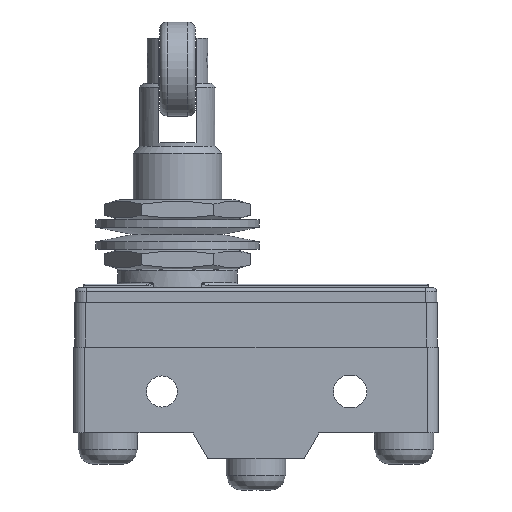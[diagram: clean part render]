
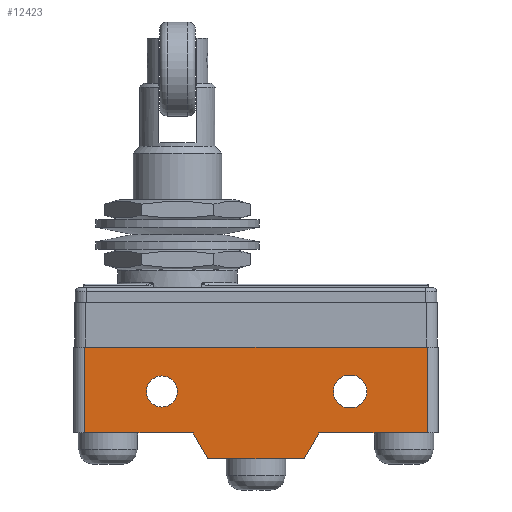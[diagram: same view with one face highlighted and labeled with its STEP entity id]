
A CAD part, left-side view. The second image highlights one B-rep face of the part: STEP entity #12423.
In plain terms, the highlighted planar face has unit normal (-1, 0, 0).
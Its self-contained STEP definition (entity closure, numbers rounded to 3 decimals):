
#1408=FACE_BOUND('',#2579,.T.);
#1409=FACE_BOUND('',#2580,.T.);
#1491=PLANE('',#13142);
#1872=FACE_OUTER_BOUND('',#2578,.T.);
#2578=EDGE_LOOP('',(#8838,#8839,#8840,#8841,#8842,#8843,#8844,#8845));
#2579=EDGE_LOOP('',(#8846));
#2580=EDGE_LOOP('',(#8847,#8848,#8849,#8850));
#3355=LINE('',#15947,#4460);
#3381=LINE('',#16093,#4486);
#3400=LINE('',#16253,#4505);
#3402=LINE('',#16257,#4507);
#3403=LINE('',#16258,#4508);
#3404=LINE('',#16260,#4509);
#3405=LINE('',#16262,#4510);
#3406=LINE('',#16263,#4511);
#3407=LINE('',#16268,#4512);
#3408=LINE('',#16272,#4513);
#4460=VECTOR('',#13706,14.6);
#4486=VECTOR('',#13752,14.6);
#4505=VECTOR('',#13775,11.6);
#4507=VECTOR('',#13779,46.2);
#4508=VECTOR('',#13780,11.6);
#4509=VECTOR('',#13781,4.031);
#4510=VECTOR('',#13782,13.);
#4511=VECTOR('',#13783,4.031);
#4512=VECTOR('',#13786,1.616);
#4513=VECTOR('',#13789,1.616);
#5571=CIRCLE('',#13143,2.1);
#5572=CIRCLE('',#13144,2.25);
#5573=CIRCLE('',#13145,2.25);
#5689=VERTEX_POINT('',#15944);
#5690=VERTEX_POINT('',#15946);
#5735=VERTEX_POINT('',#16090);
#5736=VERTEX_POINT('',#16092);
#5779=VERTEX_POINT('',#16251);
#5780=VERTEX_POINT('',#16256);
#5781=VERTEX_POINT('',#16259);
#5782=VERTEX_POINT('',#16261);
#5783=VERTEX_POINT('',#16264);
#5784=VERTEX_POINT('',#16266);
#5785=VERTEX_POINT('',#16267);
#5786=VERTEX_POINT('',#16269);
#5787=VERTEX_POINT('',#16271);
#6913=EDGE_CURVE('',#5690,#5689,#3355,.T.);
#6962=EDGE_CURVE('',#5736,#5735,#3381,.T.);
#7006=EDGE_CURVE('',#5779,#5735,#3400,.T.);
#7008=EDGE_CURVE('',#5779,#5780,#3402,.T.);
#7009=EDGE_CURVE('',#5690,#5780,#3403,.T.);
#7010=EDGE_CURVE('',#5689,#5781,#3404,.T.);
#7011=EDGE_CURVE('',#5781,#5782,#3405,.T.);
#7012=EDGE_CURVE('',#5782,#5736,#3406,.T.);
#7013=EDGE_CURVE('',#5783,#5783,#5571,.T.);
#7014=EDGE_CURVE('',#5784,#5785,#3407,.T.);
#7015=EDGE_CURVE('',#5785,#5786,#5572,.T.);
#7016=EDGE_CURVE('',#5786,#5787,#3408,.T.);
#7017=EDGE_CURVE('',#5787,#5784,#5573,.T.);
#8838=ORIENTED_EDGE('',*,*,#7006,.F.);
#8839=ORIENTED_EDGE('',*,*,#7008,.T.);
#8840=ORIENTED_EDGE('',*,*,#7009,.F.);
#8841=ORIENTED_EDGE('',*,*,#6913,.T.);
#8842=ORIENTED_EDGE('',*,*,#7010,.T.);
#8843=ORIENTED_EDGE('',*,*,#7011,.T.);
#8844=ORIENTED_EDGE('',*,*,#7012,.T.);
#8845=ORIENTED_EDGE('',*,*,#6962,.T.);
#8846=ORIENTED_EDGE('',*,*,#7013,.T.);
#8847=ORIENTED_EDGE('',*,*,#7014,.T.);
#8848=ORIENTED_EDGE('',*,*,#7015,.T.);
#8849=ORIENTED_EDGE('',*,*,#7016,.T.);
#8850=ORIENTED_EDGE('',*,*,#7017,.T.);
#12423=ADVANCED_FACE('',(#1872,#1408,#1409),#1491,.T.);
#13142=AXIS2_PLACEMENT_3D('',#16255,#13777,#13778);
#13143=AXIS2_PLACEMENT_3D('',#16265,#13784,#13785);
#13144=AXIS2_PLACEMENT_3D('',#16270,#13787,#13788);
#13145=AXIS2_PLACEMENT_3D('',#16273,#13790,#13791);
#13706=DIRECTION('',(0.,-1.,0.));
#13752=DIRECTION('',(0.,-1.,0.));
#13775=DIRECTION('',(0.,0.,-1.));
#13777=DIRECTION('center_axis',(-1.,0.,0.));
#13778=DIRECTION('ref_axis',(0.,0.,1.));
#13779=DIRECTION('',(0.,1.,0.));
#13780=DIRECTION('',(0.,0.,1.));
#13781=DIRECTION('',(0.,-0.496,-0.868));
#13782=DIRECTION('',(0.,-1.,0.));
#13783=DIRECTION('',(0.,-0.496,0.868));
#13784=DIRECTION('center_axis',(1.,0.,0.));
#13785=DIRECTION('ref_axis',(0.,0.,1.));
#13786=DIRECTION('',(0.,-1.,0.));
#13787=DIRECTION('center_axis',(1.,0.,0.));
#13788=DIRECTION('ref_axis',(0.,-0.359,0.933));
#13789=DIRECTION('',(0.,1.,0.));
#13790=DIRECTION('center_axis',(1.,0.,0.));
#13791=DIRECTION('ref_axis',(0.,0.359,-0.933));
#15944=CARTESIAN_POINT('',(-8.75,8.5,3.5));
#15946=CARTESIAN_POINT('',(-8.75,23.1,3.5));
#15947=CARTESIAN_POINT('',(-8.75,4.25,3.5));
#16090=CARTESIAN_POINT('',(-8.75,-23.1,3.5));
#16092=CARTESIAN_POINT('',(-8.75,-8.5,3.5));
#16093=CARTESIAN_POINT('',(-8.75,-12.3,3.5));
#16251=CARTESIAN_POINT('',(-8.75,-23.1,15.1));
#16253=CARTESIAN_POINT('',(-8.75,-23.1,11.325));
#16255=CARTESIAN_POINT('Origin',(-8.75,0.,7.55));
#16256=CARTESIAN_POINT('',(-8.75,23.1,15.1));
#16257=CARTESIAN_POINT('',(-8.75,-24.6,15.1));
#16258=CARTESIAN_POINT('',(-8.75,23.1,3.775));
#16259=CARTESIAN_POINT('',(-8.75,6.5,0.));
#16260=CARTESIAN_POINT('',(-8.75,7.326,1.446));
#16261=CARTESIAN_POINT('',(-8.75,-6.5,0.));
#16262=CARTESIAN_POINT('',(-8.75,24.6,0.));
#16263=CARTESIAN_POINT('',(-8.75,-8.326,3.196));
#16264=CARTESIAN_POINT('',(-8.75,12.7,7.));
#16265=CARTESIAN_POINT('Origin',(-8.75,12.7,9.1));
#16266=CARTESIAN_POINT('',(-8.75,-11.892,11.2));
#16267=CARTESIAN_POINT('',(-8.75,-13.508,11.2));
#16268=CARTESIAN_POINT('',(-8.75,-6.754,11.2));
#16269=CARTESIAN_POINT('',(-8.75,-13.508,7.));
#16270=CARTESIAN_POINT('Origin',(-8.75,-12.7,9.1));
#16271=CARTESIAN_POINT('',(-8.75,-11.892,7.));
#16272=CARTESIAN_POINT('',(-8.75,-5.946,7.));
#16273=CARTESIAN_POINT('Origin',(-8.75,-12.7,9.1));
